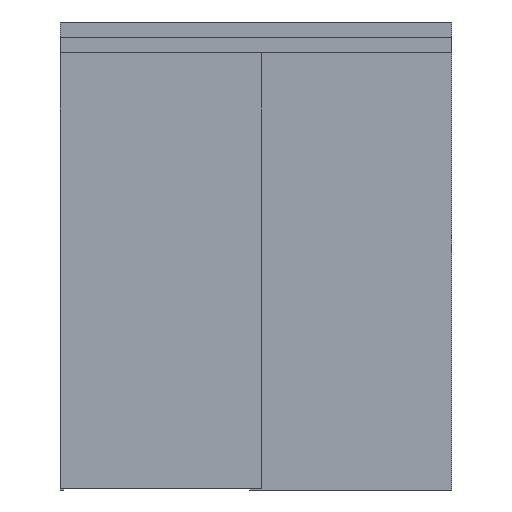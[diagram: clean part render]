
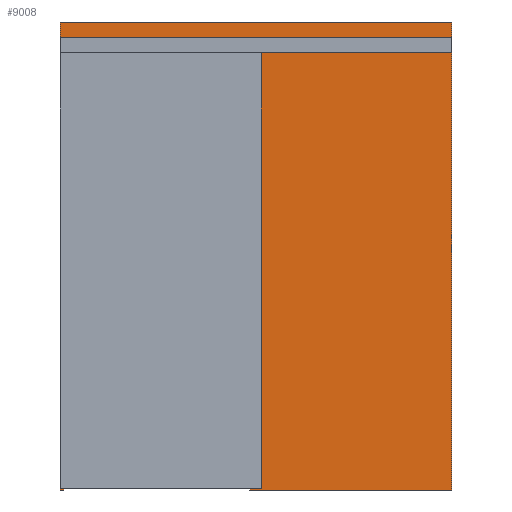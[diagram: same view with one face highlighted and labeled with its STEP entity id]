
A CAD part, front view. The second image highlights one B-rep face of the part: STEP entity #9008.
In plain terms, the highlighted planar face has unit normal (0, -1, 0).
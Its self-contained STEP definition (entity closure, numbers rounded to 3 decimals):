
#9008=ADVANCED_FACE('',(#15231),#15232,.T.);
#15231=FACE_OUTER_BOUND('',#24539,.T.);
#15232=PLANE('',#24540);
#24539=EDGE_LOOP('',(#28044,#28045,#28046,#28047,#28048,#28049,#28050,#28051));
#24540=AXIS2_PLACEMENT_3D('',#28052,#28053,#28054);
#28044=ORIENTED_EDGE('',*,*,#35280,.F.);
#28045=ORIENTED_EDGE('',*,*,#35278,.F.);
#28046=ORIENTED_EDGE('',*,*,#35274,.T.);
#28047=ORIENTED_EDGE('',*,*,#35272,.T.);
#28048=ORIENTED_EDGE('',*,*,#35269,.F.);
#28049=ORIENTED_EDGE('',*,*,#35266,.T.);
#28050=ORIENTED_EDGE('',*,*,#35263,.T.);
#28051=ORIENTED_EDGE('',*,*,#35250,.F.);
#28052=CARTESIAN_POINT('',(0.,30.,2400.0));
#28053=DIRECTION('',(0.0,-1.0,0.0));
#28054=DIRECTION('',(0.0,0.0,-1.0));
#35250=EDGE_CURVE('',#39624,#39627,#39628,.T.);
#35263=EDGE_CURVE('',#39647,#39627,#39649,.T.);
#35266=EDGE_CURVE('',#39651,#39647,#39653,.T.);
#35269=EDGE_CURVE('',#39651,#39655,#39657,.T.);
#35272=EDGE_CURVE('',#39659,#39655,#39661,.T.);
#35274=EDGE_CURVE('',#39663,#39659,#39664,.T.);
#35278=EDGE_CURVE('',#39663,#39667,#39669,.T.);
#35280=EDGE_CURVE('',#39667,#39624,#39671,.T.);
#39624=VERTEX_POINT('',#40532);
#39627=VERTEX_POINT('',#40536);
#39628=LINE('',#40537,#40538);
#39647=VERTEX_POINT('',#40566);
#39649=LINE('',#40569,#40570);
#39651=VERTEX_POINT('',#40572);
#39653=LINE('',#40575,#40576);
#39655=VERTEX_POINT('',#40578);
#39657=LINE('',#40581,#40582);
#39659=VERTEX_POINT('',#40584);
#39661=LINE('',#40587,#40588);
#39663=VERTEX_POINT('',#40590);
#39664=LINE('',#40591,#40592);
#39667=VERTEX_POINT('',#40596);
#39669=LINE('',#40599,#40600);
#39671=LINE('',#40602,#40603);
#40532=CARTESIAN_POINT('',(0.,30.,2448.0));
#40536=CARTESIAN_POINT('',(2050.0,30.,2448.0));
#40537=CARTESIAN_POINT('',(0.,30.,2448.0));
#40538=VECTOR('',#41762,1.0);
#40566=CARTESIAN_POINT('',(2050.0,30.,0.0));
#40569=CARTESIAN_POINT('',(2050.0,30.,7.0));
#40570=VECTOR('',#41773,1.0);
#40572=CARTESIAN_POINT('',(993.0,30.,0.0));
#40575=CARTESIAN_POINT('',(1327.5,30.,0.0));
#40576=VECTOR('',#41775,1.0);
#40578=CARTESIAN_POINT('',(993.0,30.,2288.0));
#40581=CARTESIAN_POINT('',(993.0,30.,7.0));
#40582=VECTOR('',#41777,1.0);
#40584=CARTESIAN_POINT('',(20.,30.,2288.0));
#40587=CARTESIAN_POINT('',(0.,30.,2288.0));
#40588=VECTOR('',#41779,1.0);
#40590=CARTESIAN_POINT('',(20.,30.,0.0));
#40591=CARTESIAN_POINT('',(20.,30.,0.0));
#40592=VECTOR('',#41780,1.0);
#40596=CARTESIAN_POINT('',(0.,30.,0.0));
#40599=CARTESIAN_POINT('',(20.,30.,0.0));
#40600=VECTOR('',#41783,1.0);
#40602=CARTESIAN_POINT('',(0.,30.,1812.0));
#40603=VECTOR('',#41784,1.0);
#41762=DIRECTION('',(1.0,0.0,0.0));
#41773=DIRECTION('',(0.0,0.0,1.0));
#41775=DIRECTION('',(1.0,0.0,0.0));
#41777=DIRECTION('',(0.0,0.0,1.0));
#41779=DIRECTION('',(1.0,0.0,0.0));
#41780=DIRECTION('',(0.0,0.0,1.0));
#41783=DIRECTION('',(-1.0,0.0,0.0));
#41784=DIRECTION('',(0.0,0.0,1.0));
